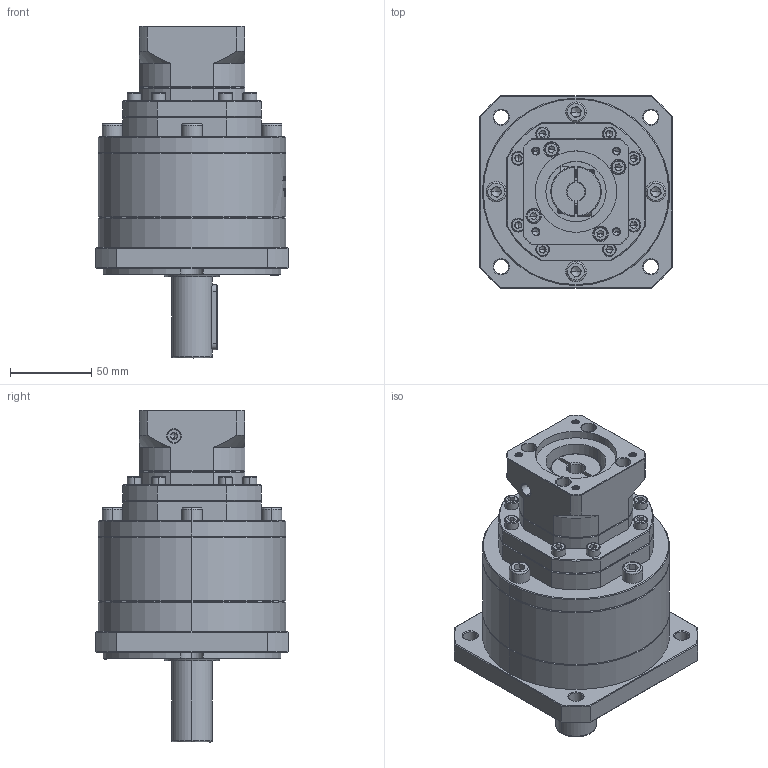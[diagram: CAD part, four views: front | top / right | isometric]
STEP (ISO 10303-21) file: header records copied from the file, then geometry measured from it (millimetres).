
FILE_DESCRIPTION (( 'STEP AP214' ), '1' );
FILE_NAME ('ZF120A-D25-L3-11-50-70-M5.step', '2023-03-07T15:54:23', ( '' ), ( 'Microsoft' ), 'SwSTEP 2.0', 'SolidWorks 2016', '' );
FILE_SCHEMA (( 'AUTOMOTIVE_DESIGN' ));
Length unit declared in the file: millimetre
Products named in the file (1): ZF120A-D25-L3-11-50-70-M5
Bounding box: 118 x 118 x 204 mm (x, y, z)
Volume: 1210028.8 mm3; surface area: 116072.9 mm2
Topology: 7 solids, 7 shells, 2083 faces, 5475 edges, 3495 vertices
Faces by surface type: plane 1002, cylinder 423, bspline 337, cone 299, torus 22
Entity records: 109625 total; most frequent: CARTESIAN_POINT 39084, ORIENTED_EDGE 10842, DIRECTION 8585, EDGE_CURVE 5421, VERTEX_POINT 3495, LINE 2985, VECTOR 2985, AXIS2_PLACEMENT_3D 2800
